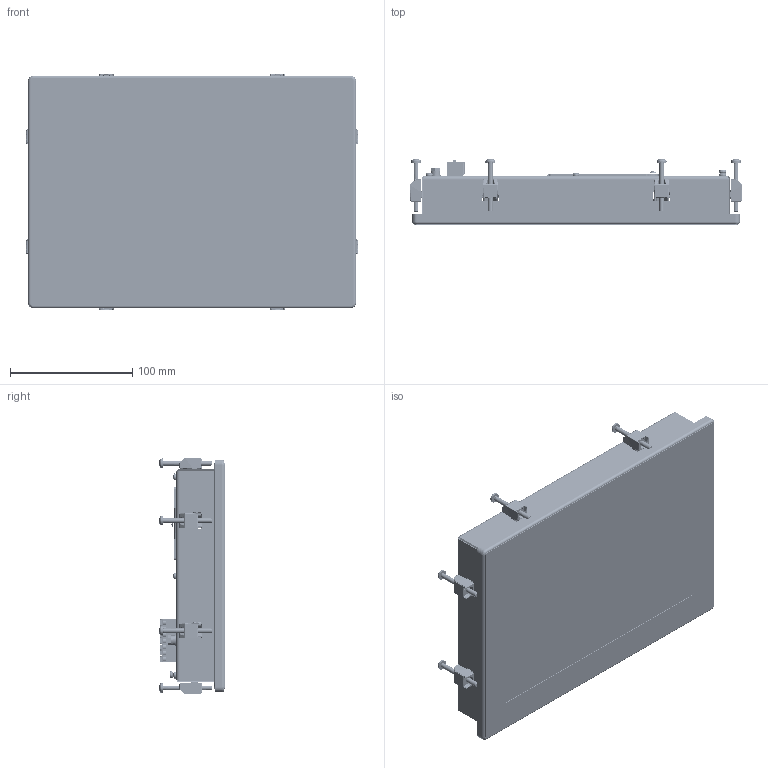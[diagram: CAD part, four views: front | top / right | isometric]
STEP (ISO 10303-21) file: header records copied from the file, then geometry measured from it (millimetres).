
FILE_DESCRIPTION(/* description */ (''),/* implementation_level */ '2;1');
FILE_NAME(/* name */ 'td815-wp-pc_12042023_web.stp',/* time_stamp */ '2025-05-13T11:45:59+02:00',/* author */ ('ut3'),/* organization */ (''),/* preprocessor_version */ 'ST-DEVELOPER v20',/* originating_system */ 'Autodesk Inventor 2025',/* authorisation */ '');
FILE_SCHEMA (('AUTOMOTIVE_DESIGN { 1 0 10303 214 3 1 1 }'));
Products named in the file (1): td815-wp-pc_12042023_web
Bounding box: 271.5 x 54.1 x 193.5 mm (x, y, z)
Volume: 572790.6 mm3; surface area: 442500.4 mm2
Topology: 11 solids, 40 shells, 6658 faces, 17703 edges, 11302 vertices
Faces by surface type: cylinder 3337, plane 1958, bspline 697, cone 276, sphere 251, torus 139
Full cylindrical faces by diameter (mm): 0.2 x347, 0.254 x124, 0.3 x926, 0.457 x1, 0.5 x124, 0.508 x41, 0.6 x39, 0.66 x2, 0.7 x28, 0.889 x24, 1.016 x14, 1.1 x3, 1.321 x3, 1.397 x7, 1.6 x3, 1.651 x2, 2.3 x2, 2.311 x2, 2.459 x36, 2.5 x28, 2.729 x1, 2.9 x67, 3 x29, 3.2 x2, 3.25 x9, 3.4 x1, 3.5 x16, 3.6 x12, 3.621 x8, 3.9 x6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
Entity records: 300341 total; most frequent: CARTESIAN_POINT 122962, ORIENTED_EDGE 35319, DIRECTION 34407, EDGE_CURVE 17689, AXIS2_PLACEMENT_3D 13516, VERTEX_POINT 11308, EDGE_LOOP 10185, LINE 7375
